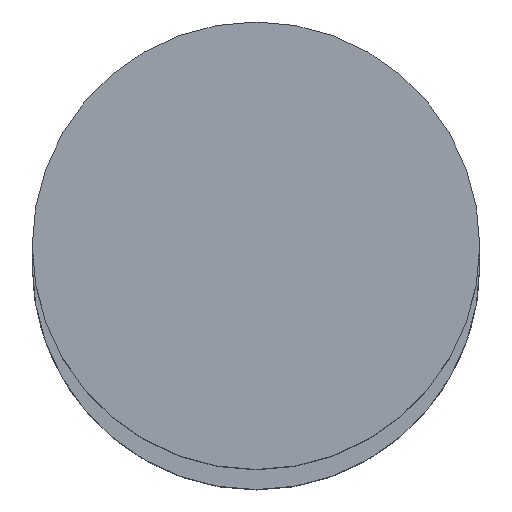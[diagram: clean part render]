
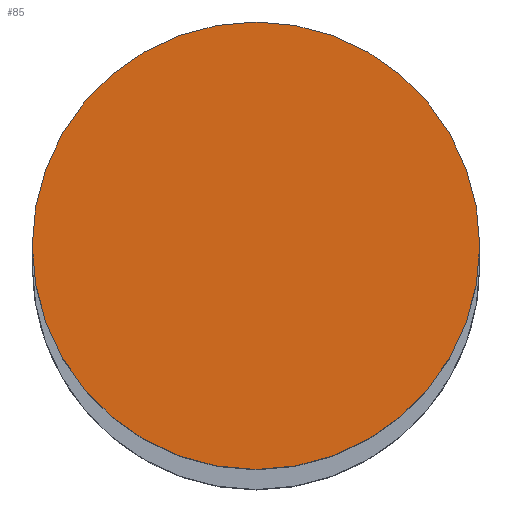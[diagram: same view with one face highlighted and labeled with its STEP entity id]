
A CAD part, top view. The second image highlights one B-rep face of the part: STEP entity #85.
In plain terms, the highlighted planar face has unit normal (0, 0, 1).
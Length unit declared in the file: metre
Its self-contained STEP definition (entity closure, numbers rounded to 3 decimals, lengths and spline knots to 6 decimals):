
#85=ADVANCED_FACE('56:4857',(#165),#166,.F.);
#165=FACE_OUTER_BOUND('',#244,.T.);
#166=PLANE('',#245);
#244=EDGE_LOOP('',(#390,#391));
#245=AXIS2_PLACEMENT_3D('',#392,#393,#394);
#390=ORIENTED_EDGE('',*,*,#433,.F.);
#391=ORIENTED_EDGE('',*,*,#478,.F.);
#392=CARTESIAN_POINT('',(-0.000092,0.000095,3.534));
#393=DIRECTION('',(0.0,0.0,-1.0));
#394=DIRECTION('',(1.0,0.0,0.0));
#433=EDGE_CURVE('27:1418',#505,#501,#507,.T.);
#478=EDGE_CURVE('',#501,#505,#572,.T.);
#501=VERTEX_POINT('',#607);
#505=VERTEX_POINT('',#612);
#507=CIRCLE('',#615,0.0155);
#572=CIRCLE('',#694,0.0155);
#607=CARTESIAN_POINT('',(0.015408,0.000095,3.534));
#612=CARTESIAN_POINT('',(-0.015592,0.000095,3.534));
#615=AXIS2_PLACEMENT_3D('',#736,#737,#738);
#694=AXIS2_PLACEMENT_3D('',#801,#802,#803);
#736=CARTESIAN_POINT('',(-0.000092,0.000095,3.534));
#737=DIRECTION('',(0.0,0.0,-1.0));
#738=DIRECTION('',(1.0,0.0,0.0));
#801=CARTESIAN_POINT('',(-0.000092,0.000095,3.534));
#802=DIRECTION('',(0.0,0.0,-1.0));
#803=DIRECTION('',(1.0,0.0,0.0));
